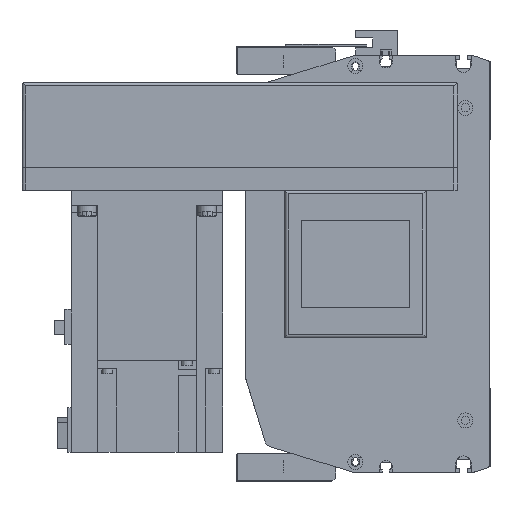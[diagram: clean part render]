
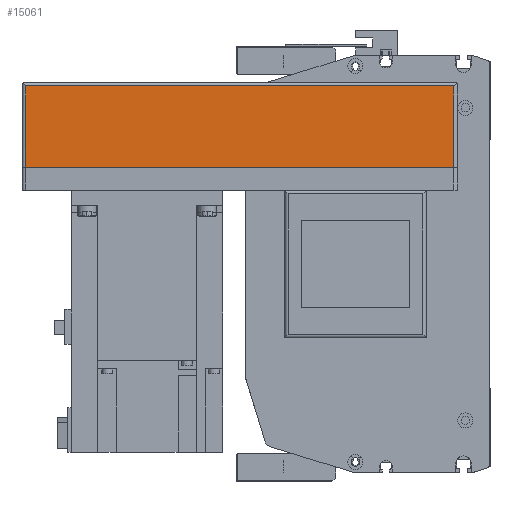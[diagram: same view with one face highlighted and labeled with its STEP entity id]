
A CAD part, left-side view. The second image highlights one B-rep face of the part: STEP entity #15061.
In plain terms, the highlighted planar face has unit normal (-1, 0, 0) as drawn and (0, 1, 0) by its records, which use the part's own axes.
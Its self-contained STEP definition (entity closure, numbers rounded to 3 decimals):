
#2556=ORIENTED_EDGE('',*,*,#6130,.F.);
#2557=ORIENTED_EDGE('',*,*,#6070,.T.);
#2558=ORIENTED_EDGE('',*,*,#6131,.F.);
#2559=ORIENTED_EDGE('',*,*,#6065,.F.);
#6065=EDGE_CURVE('',#7998,#7999,#9556,.T.);
#6070=EDGE_CURVE('',#8004,#8003,#9558,.T.);
#6130=EDGE_CURVE('',#8004,#7998,#9601,.T.);
#6131=EDGE_CURVE('',#7999,#8003,#9602,.T.);
#7998=VERTEX_POINT('',#23454);
#7999=VERTEX_POINT('',#23456);
#8003=VERTEX_POINT('',#23465);
#8004=VERTEX_POINT('',#23467);
#9556=LINE('',#23455,#10909);
#9558=LINE('',#23466,#10911);
#9601=LINE('',#23589,#10954);
#9602=LINE('',#23590,#10955);
#10909=VECTOR('',#18723,1000.);
#10911=VECTOR('',#18733,1000.);
#10954=VECTOR('',#18854,1000.);
#10955=VECTOR('',#18855,1000.);
#12116=EDGE_LOOP('',(#2556,#2557,#2558,#2559));
#13349=FACE_BOUND('',#12116,.T.);
#14420=PLANE('',#16174);
#15061=ADVANCED_FACE('',(#13349),#14420,.T.);
#16174=AXIS2_PLACEMENT_3D('',#23588,#18852,#18853);
#18723=DIRECTION('',(0.,0.,1.));
#18733=DIRECTION('',(0.,0.,1.));
#18852=DIRECTION('',(0.,1.,0.));
#18853=DIRECTION('',(0.,0.,1.));
#18854=DIRECTION('',(1.,0.,0.));
#18855=DIRECTION('',(-1.,0.,0.));
#23454=CARTESIAN_POINT('',(-2.,54.,-55.));
#23455=CARTESIAN_POINT('',(-2.,54.,-57.));
#23456=CARTESIAN_POINT('',(-2.,54.,-12.));
#23465=CARTESIAN_POINT('',(-228.,54.,-12.));
#23466=CARTESIAN_POINT('',(-228.,54.,-57.));
#23467=CARTESIAN_POINT('',(-228.,54.,-55.));
#23588=CARTESIAN_POINT('',(-2.,54.,-57.));
#23589=CARTESIAN_POINT('',(-230.,54.,-55.));
#23590=CARTESIAN_POINT('',(-2.,54.,-12.));
